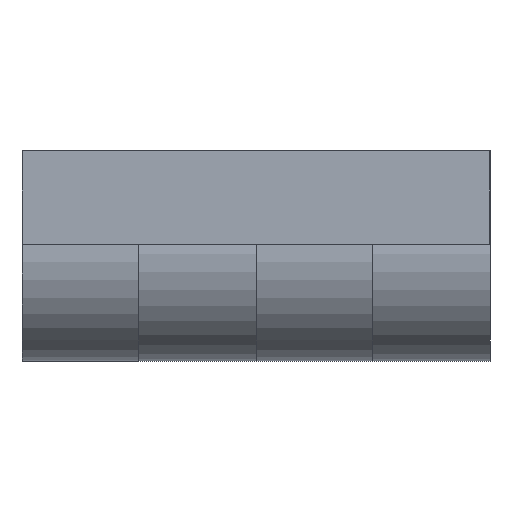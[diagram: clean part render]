
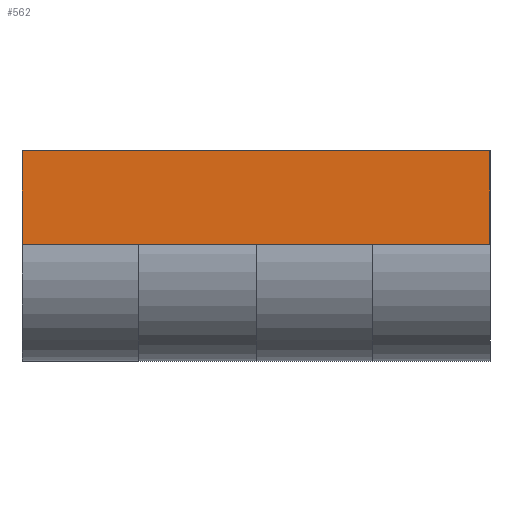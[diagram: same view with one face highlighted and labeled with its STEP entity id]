
A CAD part, left-side view. The second image highlights one B-rep face of the part: STEP entity #562.
In plain terms, the highlighted planar face has unit normal (-1, 0, 0).
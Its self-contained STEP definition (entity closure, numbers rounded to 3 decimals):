
#131=DIRECTION('',(0.,0.,1.));
#132=VECTOR('',#131,8.);
#133=CARTESIAN_POINT('',(-59.,-20.,-8.));
#134=LINE('',#133,#132);
#163=DIRECTION('',(0.,1.,0.));
#164=VECTOR('',#163,40.);
#165=CARTESIAN_POINT('',(-59.,-20.,0.));
#166=LINE('',#165,#164);
#214=DIRECTION('',(0.,0.,1.));
#215=VECTOR('',#214,8.);
#216=CARTESIAN_POINT('',(-59.,20.,-8.));
#217=LINE('',#216,#215);
#237=DIRECTION('',(0.,1.,0.));
#238=VECTOR('',#237,40.);
#239=CARTESIAN_POINT('',(-59.,-20.,-8.));
#240=LINE('',#239,#238);
#349=CARTESIAN_POINT('',(-59.,-20.,-8.));
#350=CARTESIAN_POINT('',(-59.,-20.,0.));
#351=VERTEX_POINT('',#349);
#352=VERTEX_POINT('',#350);
#353=CARTESIAN_POINT('',(-59.,20.,0.));
#355=VERTEX_POINT('',#353);
#359=CARTESIAN_POINT('',(-59.,20.,-8.));
#360=VERTEX_POINT('',#359);
#550=CARTESIAN_POINT('',(-59.,-20.,-8.));
#551=DIRECTION('',(-1.,0.,0.));
#552=DIRECTION('',(0.,0.,1.));
#553=AXIS2_PLACEMENT_3D('',#550,#551,#552);
#554=PLANE('',#553);
#555=ORIENTED_EDGE('',*,*,#426,.F.);
#557=ORIENTED_EDGE('',*,*,#556,.T.);
#558=ORIENTED_EDGE('',*,*,#536,.T.);
#559=ORIENTED_EDGE('',*,*,#465,.F.);
#560=EDGE_LOOP('',(#555,#557,#558,#559));
#561=FACE_OUTER_BOUND('',#560,.F.);
#562=ADVANCED_FACE('',(#561),#554,.T.);
#426=EDGE_CURVE('',#351,#352,#134,.T.);
#465=EDGE_CURVE('',#352,#355,#166,.T.);
#536=EDGE_CURVE('',#360,#355,#217,.T.);
#556=EDGE_CURVE('',#351,#360,#240,.T.);
